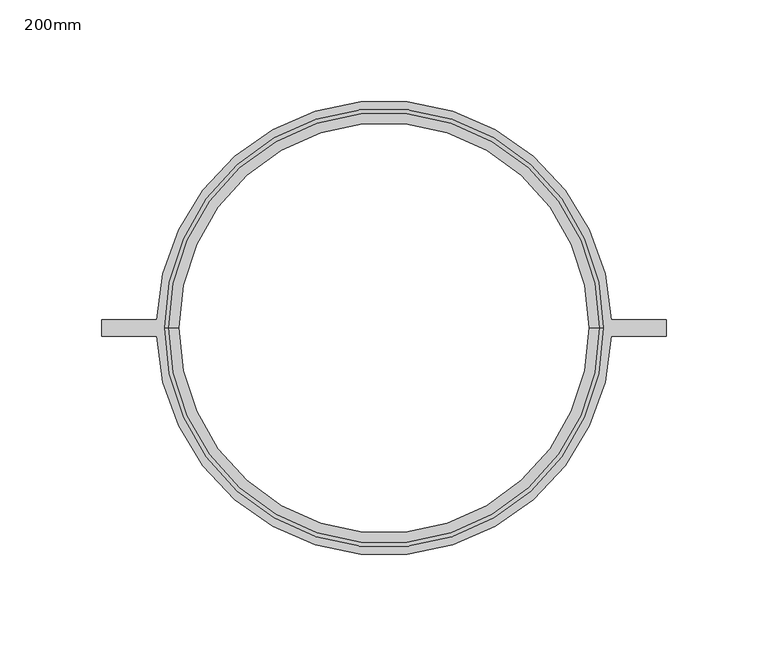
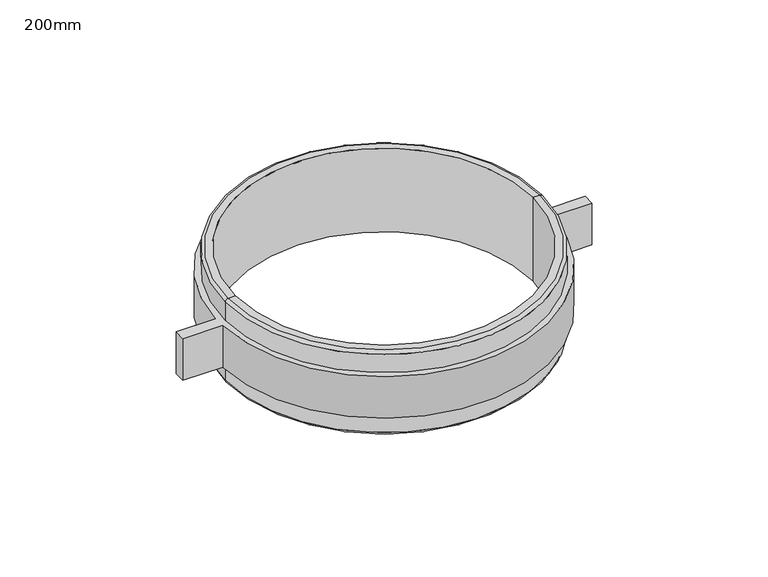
"""IFC4 building model written with IfcOpenShell, lengths in millimetres: pipe fitting geometry, PAVCO_PVC QS Soporte Fijo Vertical : 200mm."""

from ifc_helpers import new_model, si_unit, point, frame, origin, origin_2d, place, context, project, spatial, polyline, circle_curve, ellipse_curve, trimmed, segment, composite_curve, outline, extrude, source, transform, mapped, element, save
from ifc_brep_helpers import plane_surface, cylinder_surface, revolved_surface, advanced_brep


def pipe_fitting_200mm_aec1b635(model_context):
    return source(origin(), model_context, "Body", "SolidModel", [
        advanced_brep(
        [(108.0, 0.0, 15.0), (-108.0, 0.0, 15.0), (-108.0, 0.0, 27.9547527), (108.0, 0.0, 27.9547527), (104.0, 0.0, 15.0), (-104.0, 0.0, 15.0), (104.0, 0.0, -15.0), (-104.0, 0.0, -15.0), (108.0, 0.0, -15.0), (-108.0, 0.0, -15.0), (108.0, 0.0, -28.0449069), (-108.0, 0.0, -28.0449069), (101.0, 0.0, -30.0), (-101.0, 0.0, -30.0), (-106.0449069, 0.0, -30.0), (106.0449069, 0.0, -30.0), (101.0, 0.0, 30.0), (-101.0, 0.0, 30.0), (105.9547527, 0.0, 30.0), (-105.9547527, 0.0, 30.0)],
        [
            (0, 1, circle_curve(frame((0.0, 0.0, 15.0), z_axis=(0.0, 0.0, 1.0), x_axis=(-1.0, 0.0, 0.0)), 108.0)),
            (1, 2),
            (2, 3, circle_curve(frame((0.0, 0.0, 27.9547527), z_axis=(0.0, 0.0, -1.0), x_axis=(-1.0, 0.0, 0.0)), 108.0)),
            (3, 0),
            (1, 0, circle_curve(frame((0.0, 0.0, 15.0), z_axis=(0.0, 0.0, 1.0), x_axis=(-1.0, 0.0, 0.0)), 108.0)),
            (3, 2, circle_curve(frame((0.0, 0.0, 27.9547527), z_axis=(0.0, 0.0, -1.0), x_axis=(-1.0, 0.0, 0.0)), 108.0)),
            (4, 5, circle_curve(frame((0.0, 0.0, 15.0), z_axis=(0.0, 0.0, 1.0), x_axis=(-1.0, 0.0, 0.0)), 104.0)),
            (5, 1),
            (0, 4),
            (5, 4, circle_curve(frame((0.0, 0.0, 15.0), z_axis=(0.0, 0.0, 1.0), x_axis=(-1.0, 0.0, 0.0)), 104.0)),
            (6, 7, circle_curve(frame((0.0, 0.0, -15.0), z_axis=(0.0, 0.0, 1.0), x_axis=(-1.0, 0.0, 0.0)), 104.0)),
            (7, 5),
            (4, 6),
            (7, 6, circle_curve(frame((0.0, 0.0, -15.0), z_axis=(0.0, 0.0, 1.0), x_axis=(-1.0, 0.0, 0.0)), 104.0)),
            (8, 9, circle_curve(frame((0.0, 0.0, -15.0), z_axis=(0.0, 0.0, 1.0), x_axis=(-1.0, 0.0, 0.0)), 108.0)),
            (9, 7),
            (6, 8),
            (9, 8, circle_curve(frame((0.0, 0.0, -15.0), z_axis=(0.0, 0.0, 1.0), x_axis=(-1.0, 0.0, 0.0)), 108.0)),
            (10, 11, circle_curve(frame((0.0, 0.0, -28.0449069), z_axis=(0.0, 0.0, 1.0), x_axis=(-1.0, 0.0, 0.0)), 108.0)),
            (11, 9),
            (8, 10),
            (11, 10, circle_curve(frame((0.0, 0.0, -28.0449069), z_axis=(0.0, 0.0, 1.0), x_axis=(-1.0, 0.0, 0.0)), 108.0)),
            (12, 13, circle_curve(frame((0.0, 0.0, -30.0), z_axis=(0.0, 0.0, 1.0), x_axis=(-1.0, 0.0, 0.0)), 101.0)),
            (13, 14),
            (14, 15, circle_curve(frame((0.0, 0.0, -30.0), z_axis=(0.0, 0.0, -1.0), x_axis=(-1.0, 0.0, 0.0)), 106.0449069)),
            (15, 12),
            (13, 12, circle_curve(frame((0.0, 0.0, -30.0), z_axis=(0.0, 0.0, 1.0), x_axis=(-1.0, 0.0, 0.0)), 101.0)),
            (15, 14, circle_curve(frame((0.0, 0.0, -30.0), z_axis=(0.0, 0.0, -1.0), x_axis=(-1.0, 0.0, 0.0)), 106.0449069)),
            (16, 17, circle_curve(frame((0.0, 0.0, 30.0), z_axis=(0.0, 0.0, 1.0), x_axis=(-1.0, 0.0, 0.0)), 101.0)),
            (17, 13),
            (12, 16),
            (17, 16, circle_curve(frame((0.0, 0.0, 30.0), z_axis=(0.0, 0.0, 1.0), x_axis=(-1.0, 0.0, 0.0)), 101.0)),
            (18, 19, circle_curve(frame((0.0, 0.0, 30.0), z_axis=(0.0, 0.0, 1.0), x_axis=(-1.0, 0.0, 0.0)), 105.9547527)),
            (19, 17),
            (16, 18),
            (19, 18, circle_curve(frame((0.0, 0.0, 30.0), z_axis=(0.0, 0.0, 1.0), x_axis=(-1.0, 0.0, 0.0)), 105.9547527)),
            (2, 19, circle_curve(frame((-105.9547527, 0.0, 27.9547527), z_axis=(0.0, 1.0, 0.0), x_axis=(1.0, 0.0, 0.0)), 2.0452473)),
            (18, 3, circle_curve(frame((105.9547527, 0.0, 27.9547527), z_axis=(0.0, 1.0, 0.0), x_axis=(-1.0, 0.0, 0.0)), 2.0452473)),
            (14, 11, circle_curve(frame((-106.0449069, 0.0, -28.0449069), z_axis=(0.0, 1.0, 0.0), x_axis=(1.0, 0.0, 0.0)), 1.9550931)),
            (10, 15, circle_curve(frame((106.0449069, 0.0, -28.0449069), z_axis=(0.0, 1.0, 0.0), x_axis=(-1.0, 0.0, 0.0)), 1.9550931)),
        ],
        [
            cylinder_surface(frame((0.0, 0.0, 2206.3276008), z_axis=(0.0, 0.0, -1.0), x_axis=(-1.0, 0.0, 0.0)), 108.0),
            plane_surface(frame((0.0, 0.0, 15.0), z_axis=(0.0, 0.0, -1.0), x_axis=(-1.0, 0.0, 0.0))),
            cylinder_surface(frame((0.0, 0.0, 2206.3276008), z_axis=(0.0, 0.0, -1.0), x_axis=(-1.0, 0.0, 0.0)), 104.0),
            plane_surface(frame((0.0, 0.0, -15.0), z_axis=(0.0, 0.0, 1.0), x_axis=(-1.0, 0.0, 0.0))),
            plane_surface(frame((0.0, 0.0, -30.0), z_axis=(0.0, 0.0, -1.0), x_axis=(-1.0, 0.0, 0.0))),
            revolved_surface(polyline([(-101.0, 0.0, -30.0), (-101.0, 0.0, 30.0)]), (0.0, 0.0, 2206.3276008), (0.0, 0.0, -1.0)),
            plane_surface(frame((0.0, 0.0, 30.0), z_axis=(0.0, 0.0, 1.0), x_axis=(-1.0, 0.0, 0.0))),
            revolved_surface(trimmed(ellipse_curve(frame((-105.9547527, 0.0, 27.9547527), z_axis=(0.0, -1.0, 0.0), x_axis=(1.0, 0.0, 0.0)), 2.0452473, 2.0452473), [point((-105.9547527, 0.0, 30.0))], [point((-108.0, 0.0, 27.9547527))], True, "CARTESIAN"), (0.0, 0.0, 2206.3276008), (0.0, 0.0, -1.0)),
            revolved_surface(trimmed(ellipse_curve(frame((-106.0449069, 0.0, -28.0449069), z_axis=(0.0, -1.0, 0.0), x_axis=(1.0, 0.0, 0.0)), 1.9550931, 1.9550931), [point((-108.0, 0.0, -28.0449069))], [point((-106.0449069, 0.0, -30.0))], True, "CARTESIAN"), (0.0, 0.0, 2206.3276008), (0.0, 0.0, -1.0)),
        ],
        [
            (0, [[1, 2, 3, 4]]),
            (0, [[5, -4, 6, -2]]),
            (1, [[7, 8, -1, 9]]),
            (1, [[10, -9, -5, -8]]),
            (2, [[11, 12, -7, 13]]),
            (2, [[14, -13, -10, -12]]),
            (3, [[15, 16, -11, 17]]),
            (3, [[18, -17, -14, -16]]),
            (0, [[19, 20, -15, 21]]),
            (0, [[22, -21, -18, -20]]),
            (4, [[23, 24, 25, 26]]),
            (4, [[27, -26, 28, -24]]),
            (5, [[29, 30, -23, 31]]),
            (5, [[32, -31, -27, -30]]),
            (6, [[33, 34, -29, 35]]),
            (6, [[36, -35, -32, -34]]),
            (7, [[-3, 37, -33, 38]]),
            (7, [[-6, -38, -36, -37]]),
            (8, [[-25, 39, -19, 40]]),
            (8, [[-28, -40, -22, -39]]),
        ],
    ),
        extrude(outline(composite_curve([segment(polyline([(139.0, -4.0), (111.9285486, -4.0)]), True, "CONTINUOUS"), segment(trimmed(circle_curve(origin_2d(), 112.0), [point((111.9285486, -4.0))], [point((-111.9285486, -4.0))], False, "CARTESIAN"), True, "CONTINUOUS"), segment(polyline([(-111.9285486, -4.0), (-139.0, -4.0), (-139.0, 4.0), (-111.9285486, 4.0)]), True, "CONTINUOUS"), segment(trimmed(circle_curve(origin_2d(), 112.0), [point((-111.9285486, 4.0))], [point((111.9285486, 4.0))], False, "CARTESIAN"), True, "CONTINUOUS"), segment(polyline([(111.9285486, 4.0), (139.0, 4.0), (139.0, -4.0)]), True, "CONTINUOUS")], self_intersect=False), holes=[composite_curve([segment(trimmed(circle_curve(origin_2d(), 104.0), [point((-104.0, 0.0))], [point((104.0, 0.0))], True, "CARTESIAN"), True, "CONTINUOUS"), segment(trimmed(circle_curve(origin_2d(), 104.0), [point((104.0, 0.0))], [point((-104.0, 0.0))], True, "CARTESIAN"), True, "CONTINUOUS")], self_intersect=False)]), frame((0.0, 0.0, -15.0), z_axis=(0.0, 0.0, 1.0), x_axis=(1.0, 0.0, 0.0)), (0.0, 0.0, 1.0), 30.0),
    ])


if __name__ == "__main__":
    model = new_model("IFC4")
    model_context = context("Model", 3, world=origin())
    ifc_project = project(units=[si_unit("LENGTHUNIT", "METRE", prefix="MILLI")], contexts=[model_context])
    site = spatial("IfcSite", under=ifc_project)
    building = spatial("IfcBuilding", under=site)
    placement = place(None, origin())
    pipe_fitting_200mm_shape = pipe_fitting_200mm_aec1b635(model_context)
    element("IfcPipeFitting", 1, ObjectType="PAVCO_PVC QS Soporte Fijo Vertical : 200mm", at=placement, inside=building, context=model_context, shape_type="MappedRepresentation", body=[
        mapped(pipe_fitting_200mm_shape, transform((0.0, 0.0, 0.0), x_axis=(1.0, 0.0, 0.0), y_axis=(0.0, 1.0, 0.0), z_axis=(0.0, 0.0, 1.0))),
    ])
    save(model, "model.ifc")
